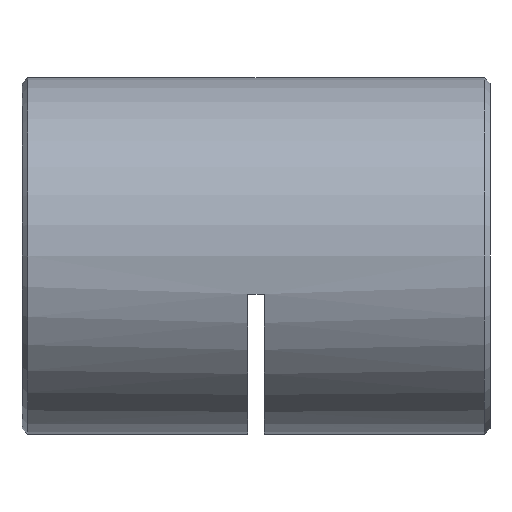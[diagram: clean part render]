
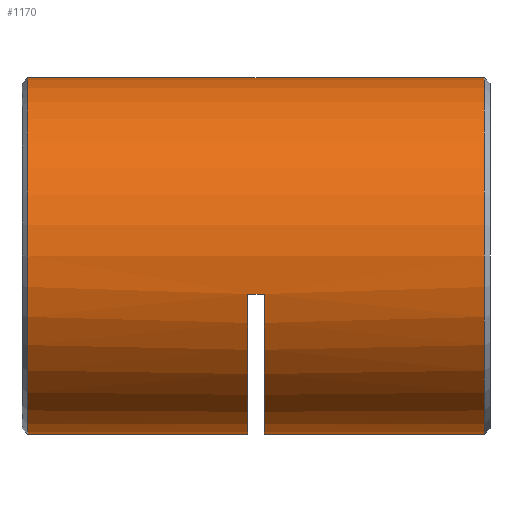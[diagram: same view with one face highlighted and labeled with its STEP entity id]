
A CAD part, left-side view. The second image highlights one B-rep face of the part: STEP entity #1170.
In plain terms, the highlighted cylindrical face has radius 16 mm (diameter 32 mm), a partial arc.
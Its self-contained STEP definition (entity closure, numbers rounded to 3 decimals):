
#130 = CARTESIAN_POINT ( 'NONE',  ( 0., 0.75, 16. ) ) ;
#145 = AXIS2_PLACEMENT_3D ( 'NONE', #4648, #5577, #6148 ) ;
#268 = DIRECTION ( 'NONE',  ( 0., -1., 0. ) ) ;
#300 = VERTEX_POINT ( 'NONE', #4874 ) ;
#353 = CARTESIAN_POINT ( 'NONE',  ( -15.632, 21.25, -3.413 ) ) ;
#402 = AXIS2_PLACEMENT_3D ( 'NONE', #2963, #967, #6389 ) ;
#625 = DIRECTION ( 'NONE',  ( 0., 0., -1. ) ) ;
#695 = DIRECTION ( 'NONE',  ( 0., 0., -1. ) ) ;
#768 = CARTESIAN_POINT ( 'NONE',  ( 0., 22., -16. ) ) ;
#960 = VECTOR ( 'NONE', #268, 1000. ) ;
#967 = DIRECTION ( 'NONE',  ( 0., 1., 0. ) ) ;
#989 = AXIS2_PLACEMENT_3D ( 'NONE', #1674, #2197, #1191 ) ;
#1025 = FACE_OUTER_BOUND ( 'NONE', #2210, .T. ) ;
#1170 = ADVANCED_FACE ( 'NONE', ( #1025 ), #5976, .T. ) ;
#1191 = DIRECTION ( 'NONE',  ( 0., 0., -1. ) ) ;
#1293 = DIRECTION ( 'NONE',  ( 0., -1., 0. ) ) ;
#1308 = CIRCLE ( 'NONE', #4835, 16. ) ;
#1342 = CARTESIAN_POINT ( 'NONE',  ( 0., 42.5, -16. ) ) ;
#1674 = CARTESIAN_POINT ( 'NONE',  ( 0., 42.5, 0. ) ) ;
#1693 = CARTESIAN_POINT ( 'NONE',  ( 0., 22., 0. ) ) ;
#1881 = DIRECTION ( 'NONE',  ( 0., -1., 0. ) ) ;
#1926 = ORIENTED_EDGE ( 'NONE', *, *, #5576, .F. ) ;
#1980 = VERTEX_POINT ( 'NONE', #2151 ) ;
#2071 = DIRECTION ( 'NONE',  ( 0., -1., 0. ) ) ;
#2091 = EDGE_CURVE ( 'NONE', #4228, #6241, #6355, .T. ) ;
#2151 = CARTESIAN_POINT ( 'NONE',  ( -15.632, 22., -3.413 ) ) ;
#2197 = DIRECTION ( 'NONE',  ( 0., -1., 0. ) ) ;
#2210 = EDGE_LOOP ( 'NONE', ( #1926, #3375, #2448, #2489, #5833, #2320, #4311, #2945 ) ) ;
#2290 = CARTESIAN_POINT ( 'NONE',  ( 0., 0.75, -16. ) ) ;
#2320 = ORIENTED_EDGE ( 'NONE', *, *, #2442, .T. ) ;
#2442 = EDGE_CURVE ( 'NONE', #3219, #4228, #5345, .T. ) ;
#2448 = ORIENTED_EDGE ( 'NONE', *, *, #6396, .T. ) ;
#2489 = ORIENTED_EDGE ( 'NONE', *, *, #4323, .F. ) ;
#2605 = VERTEX_POINT ( 'NONE', #768 ) ;
#2620 = CIRCLE ( 'NONE', #402, 16. ) ;
#2743 = CARTESIAN_POINT ( 'NONE',  ( 0., 20.5, -16. ) ) ;
#2826 = CARTESIAN_POINT ( 'NONE',  ( 0., 41.75, -16. ) ) ;
#2945 = ORIENTED_EDGE ( 'NONE', *, *, #5405, .T. ) ;
#2963 = CARTESIAN_POINT ( 'NONE',  ( 0., 0.75, 0. ) ) ;
#3004 = LINE ( 'NONE', #1342, #4627 ) ;
#3219 = VERTEX_POINT ( 'NONE', #5884 ) ;
#3362 = VERTEX_POINT ( 'NONE', #2826 ) ;
#3375 = ORIENTED_EDGE ( 'NONE', *, *, #5686, .T. ) ;
#3495 = VECTOR ( 'NONE', #1293, 1000. ) ;
#3694 = LINE ( 'NONE', #4585, #5013 ) ;
#4028 = AXIS2_PLACEMENT_3D ( 'NONE', #6202, #6174, #625 ) ;
#4228 = VERTEX_POINT ( 'NONE', #2743 ) ;
#4240 = VERTEX_POINT ( 'NONE', #130 ) ;
#4244 = CIRCLE ( 'NONE', #145, 16. ) ;
#4311 = ORIENTED_EDGE ( 'NONE', *, *, #2091, .T. ) ;
#4323 = EDGE_CURVE ( 'NONE', #1980, #2605, #1308, .T. ) ;
#4475 = EDGE_CURVE ( 'NONE', #1980, #3219, #5028, .T. ) ;
#4585 = CARTESIAN_POINT ( 'NONE',  ( 0., 42.5, 16. ) ) ;
#4627 = VECTOR ( 'NONE', #1881, 1000. ) ;
#4648 = CARTESIAN_POINT ( 'NONE',  ( 0., 41.75, 0. ) ) ;
#4695 = DIRECTION ( 'NONE',  ( 0., -1., 0. ) ) ;
#4835 = AXIS2_PLACEMENT_3D ( 'NONE', #1693, #4695, #695 ) ;
#4874 = CARTESIAN_POINT ( 'NONE',  ( 0., 41.75, 16. ) ) ;
#5013 = VECTOR ( 'NONE', #2071, 1000. ) ;
#5028 = LINE ( 'NONE', #353, #3495 ) ;
#5345 = CIRCLE ( 'NONE', #4028, 16. ) ;
#5405 = EDGE_CURVE ( 'NONE', #6241, #4240, #2620, .T. ) ;
#5576 = EDGE_CURVE ( 'NONE', #300, #4240, #3694, .T. ) ;
#5577 = DIRECTION ( 'NONE',  ( 0., -1., 0. ) ) ;
#5635 = CARTESIAN_POINT ( 'NONE',  ( 0., 42.5, -16. ) ) ;
#5686 = EDGE_CURVE ( 'NONE', #300, #3362, #4244, .T. ) ;
#5833 = ORIENTED_EDGE ( 'NONE', *, *, #4475, .T. ) ;
#5884 = CARTESIAN_POINT ( 'NONE',  ( -15.632, 20.5, -3.413 ) ) ;
#5976 = CYLINDRICAL_SURFACE ( 'NONE', #989, 16. ) ;
#6148 = DIRECTION ( 'NONE',  ( 0., 0., -1. ) ) ;
#6174 = DIRECTION ( 'NONE',  ( 0., -1., 0. ) ) ;
#6202 = CARTESIAN_POINT ( 'NONE',  ( 0., 20.5, 0. ) ) ;
#6241 = VERTEX_POINT ( 'NONE', #2290 ) ;
#6355 = LINE ( 'NONE', #5635, #960 ) ;
#6389 = DIRECTION ( 'NONE',  ( 0., 0., 1. ) ) ;
#6396 = EDGE_CURVE ( 'NONE', #3362, #2605, #3004, .T. ) ;
